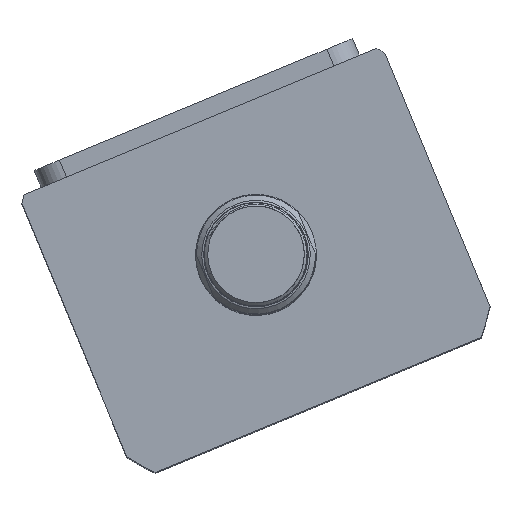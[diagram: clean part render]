
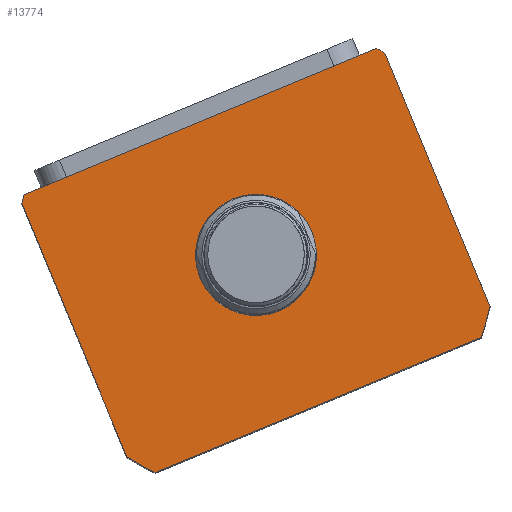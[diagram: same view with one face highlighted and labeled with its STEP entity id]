
A CAD part, top view. The second image highlights one B-rep face of the part: STEP entity #13774.
In plain terms, the highlighted planar face has unit normal (0, 0, 1) as drawn and (0, 0, -1) by its records, which use the part's own axes.
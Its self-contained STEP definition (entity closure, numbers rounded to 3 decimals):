
#906 = EDGE_CURVE ( 'NONE', #27832, #17859, #14531, .T. ) ;
#1071 = AXIS2_PLACEMENT_3D ( 'NONE', #7331, #22603, #9513 ) ;
#1189 = ORIENTED_EDGE ( 'NONE', *, *, #24295, .F. ) ;
#1779 = DIRECTION ( 'NONE',  ( 0., -1., 0. ) ) ;
#1810 = FACE_OUTER_BOUND ( 'NONE', #12370, .T. ) ;
#2374 = CARTESIAN_POINT ( 'NONE',  ( -57., -106.497, 0. ) ) ;
#2553 = ORIENTED_EDGE ( 'NONE', *, *, #906, .F. ) ;
#3133 = CIRCLE ( 'NONE', #10681, 69.5 ) ;
#3152 = CIRCLE ( 'NONE', #18467, 69.5 ) ;
#3712 = AXIS2_PLACEMENT_3D ( 'NONE', #22320, #9226, #24505 ) ;
#3869 = VECTOR ( 'NONE', #15342, 1000. ) ;
#3875 = CARTESIAN_POINT ( 'NONE',  ( 0., -59.497, 0. ) ) ;
#4171 = VECTOR ( 'NONE', #4499, 1000. ) ;
#4499 = DIRECTION ( 'NONE',  ( 0., 1., 0. ) ) ;
#4827 = CIRCLE ( 'NONE', #1071, 17.5 ) ;
#5227 = CARTESIAN_POINT ( 'NONE',  ( -57., -19.732, 0. ) ) ;
#5282 = DIRECTION ( 'NONE',  ( 1., 0., 0. ) ) ;
#5367 = DIRECTION ( 'NONE',  ( 0., 0., 1. ) ) ;
#5980 = DIRECTION ( 'NONE',  ( 1., 0., 0. ) ) ;
#6064 = CARTESIAN_POINT ( 'NONE',  ( 0., -59.497, 0. ) ) ;
#6154 = CIRCLE ( 'NONE', #26208, 17.5 ) ;
#6547 = CARTESIAN_POINT ( 'NONE',  ( 51.198, -106.497, 0. ) ) ;
#7331 = CARTESIAN_POINT ( 'NONE',  ( 0., -59.497, 0. ) ) ;
#7416 = FACE_BOUND ( 'NONE', #27797, .T. ) ;
#7450 = DIRECTION ( 'NONE',  ( 0., 0., 1. ) ) ;
#7497 = ORIENTED_EDGE ( 'NONE', *, *, #27437, .F. ) ;
#8099 = DIRECTION ( 'NONE',  ( 1., 0., 0. ) ) ;
#8219 = DIRECTION ( 'NONE',  ( 1., 0., 0. ) ) ;
#8339 = CARTESIAN_POINT ( 'NONE',  ( 57., -19.732, 0. ) ) ;
#8358 = EDGE_CURVE ( 'NONE', #18180, #9915, #12283, .T. ) ;
#8627 = EDGE_CURVE ( 'NONE', #18926, #26316, #9535, .T. ) ;
#8809 = EDGE_CURVE ( 'NONE', #17859, #25265, #13953, .T. ) ;
#9226 = DIRECTION ( 'NONE',  ( 0., 0., 1. ) ) ;
#9513 = DIRECTION ( 'NONE',  ( 1., 0., 0. ) ) ;
#9535 = LINE ( 'NONE', #17349, #3869 ) ;
#9915 = VERTEX_POINT ( 'NONE', #13864 ) ;
#10681 = AXIS2_PLACEMENT_3D ( 'NONE', #20500, #7450, #22725 ) ;
#11237 = LINE ( 'NONE', #17471, #4171 ) ;
#12091 = CARTESIAN_POINT ( 'NONE',  ( 55.374, -17.497, 0. ) ) ;
#12283 = LINE ( 'NONE', #23445, #17393 ) ;
#12370 = EDGE_LOOP ( 'NONE', ( #14636, #25541, #13944, #2553, #7497, #12596, #1189, #23544 ) ) ;
#12596 = ORIENTED_EDGE ( 'NONE', *, *, #8358, .F. ) ;
#13538 = EDGE_CURVE ( 'NONE', #26662, #18926, #3133, .T. ) ;
#13774 = ADVANCED_FACE ( 'NONE', ( #7416, #1810 ), #14378, .F. ) ;
#13815 = CARTESIAN_POINT ( 'NONE',  ( -51.198, -106.497, 0. ) ) ;
#13841 = VECTOR ( 'NONE', #5282, 1000. ) ;
#13864 = CARTESIAN_POINT ( 'NONE',  ( -57., -99.262, 0. ) ) ;
#13944 = ORIENTED_EDGE ( 'NONE', *, *, #8809, .F. ) ;
#13953 = CIRCLE ( 'NONE', #3712, 69.5 ) ;
#14378 = PLANE ( 'NONE',  #25286 ) ;
#14426 = CARTESIAN_POINT ( 'NONE',  ( -17.5, -59.497, 0. ) ) ;
#14531 = LINE ( 'NONE', #2374, #13841 ) ;
#14636 = ORIENTED_EDGE ( 'NONE', *, *, #13538, .F. ) ;
#15324 = ORIENTED_EDGE ( 'NONE', *, *, #22842, .T. ) ;
#15342 = DIRECTION ( 'NONE',  ( -1., 0., 0. ) ) ;
#15602 = VERTEX_POINT ( 'NONE', #14426 ) ;
#15854 = AXIS2_PLACEMENT_3D ( 'NONE', #6064, #21267, #8219 ) ;
#16461 = CARTESIAN_POINT ( 'NONE',  ( -55.374, -17.497, 0. ) ) ;
#16778 = CARTESIAN_POINT ( 'NONE',  ( 0., 0., 0. ) ) ;
#17349 = CARTESIAN_POINT ( 'NONE',  ( -57., -17.497, 0. ) ) ;
#17393 = VECTOR ( 'NONE', #1779, 1000. ) ;
#17471 = CARTESIAN_POINT ( 'NONE',  ( 57., -17.497, 0. ) ) ;
#17859 = VERTEX_POINT ( 'NONE', #6547 ) ;
#18068 = CIRCLE ( 'NONE', #15854, 69.5 ) ;
#18180 = VERTEX_POINT ( 'NONE', #5227 ) ;
#18366 = CARTESIAN_POINT ( 'NONE',  ( 0., -59.497, 0. ) ) ;
#18467 = AXIS2_PLACEMENT_3D ( 'NONE', #3875, #18995, #5980 ) ;
#18926 = VERTEX_POINT ( 'NONE', #12091 ) ;
#18995 = DIRECTION ( 'NONE',  ( 0., 0., 1. ) ) ;
#20500 = CARTESIAN_POINT ( 'NONE',  ( 0., -59.497, 0. ) ) ;
#20564 = DIRECTION ( 'NONE',  ( 1., 0., 0. ) ) ;
#21159 = DIRECTION ( 'NONE',  ( 0., 0., 1. ) ) ;
#21267 = DIRECTION ( 'NONE',  ( 0., 0., 1. ) ) ;
#22320 = CARTESIAN_POINT ( 'NONE',  ( 0., -59.497, 0. ) ) ;
#22603 = DIRECTION ( 'NONE',  ( 0., 0., 1. ) ) ;
#22725 = DIRECTION ( 'NONE',  ( 1., 0., 0. ) ) ;
#22737 = EDGE_CURVE ( 'NONE', #24209, #15602, #6154, .T. ) ;
#22748 = CARTESIAN_POINT ( 'NONE',  ( 17.5, -59.497, 0. ) ) ;
#22842 = EDGE_CURVE ( 'NONE', #15602, #24209, #4827, .T. ) ;
#23445 = CARTESIAN_POINT ( 'NONE',  ( -57., -17.497, 0. ) ) ;
#23544 = ORIENTED_EDGE ( 'NONE', *, *, #8627, .F. ) ;
#23972 = CARTESIAN_POINT ( 'NONE',  ( 57., -99.262, 0. ) ) ;
#24209 = VERTEX_POINT ( 'NONE', #22748 ) ;
#24295 = EDGE_CURVE ( 'NONE', #26316, #18180, #18068, .T. ) ;
#24505 = DIRECTION ( 'NONE',  ( 1., 0., 0. ) ) ;
#25265 = VERTEX_POINT ( 'NONE', #23972 ) ;
#25286 = AXIS2_PLACEMENT_3D ( 'NONE', #16778, #21159, #8099 ) ;
#25294 = EDGE_CURVE ( 'NONE', #25265, #26662, #11237, .T. ) ;
#25541 = ORIENTED_EDGE ( 'NONE', *, *, #25294, .F. ) ;
#26208 = AXIS2_PLACEMENT_3D ( 'NONE', #18366, #5367, #20564 ) ;
#26316 = VERTEX_POINT ( 'NONE', #16461 ) ;
#26662 = VERTEX_POINT ( 'NONE', #8339 ) ;
#26820 = ORIENTED_EDGE ( 'NONE', *, *, #22737, .T. ) ;
#27437 = EDGE_CURVE ( 'NONE', #9915, #27832, #3152, .T. ) ;
#27797 = EDGE_LOOP ( 'NONE', ( #26820, #15324 ) ) ;
#27832 = VERTEX_POINT ( 'NONE', #13815 ) ;
